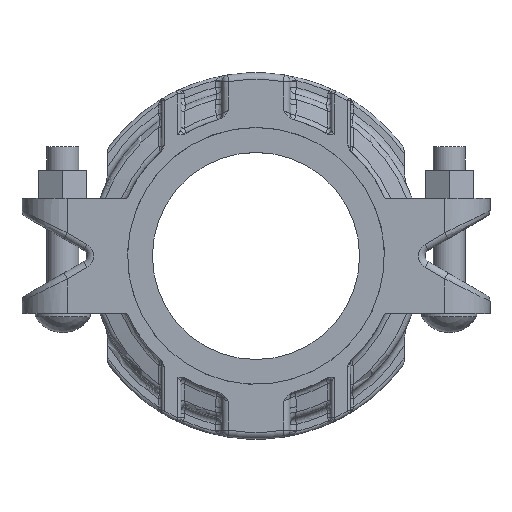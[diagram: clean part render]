
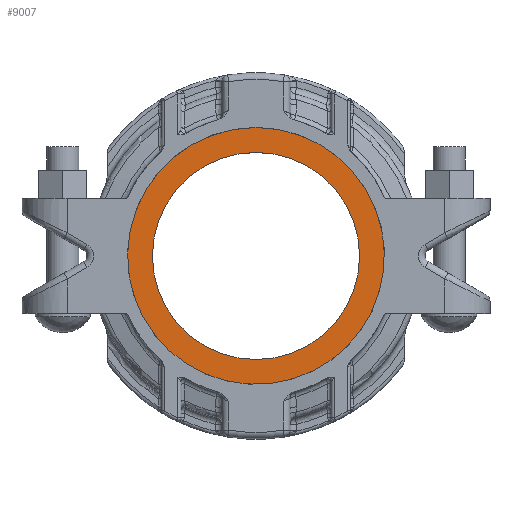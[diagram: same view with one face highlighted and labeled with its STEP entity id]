
A CAD part, top view. The second image highlights one B-rep face of the part: STEP entity #9007.
In plain terms, the highlighted planar face has unit normal (0, 0, 1).
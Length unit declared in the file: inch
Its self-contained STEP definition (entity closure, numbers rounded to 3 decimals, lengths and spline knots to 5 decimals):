
#1691=FACE_BOUND('',#2291,.T.);
#1710=FACE_OUTER_BOUND('',#2290,.T.);
#2290=EDGE_LOOP('',(#5630,#5631));
#2291=EDGE_LOOP('',(#5632));
#2886=CIRCLE('',#9608,2.01563);
#2887=CIRCLE('',#9610,2.5);
#2888=CIRCLE('',#9611,2.5);
#3475=VERTEX_POINT('',#13153);
#3476=VERTEX_POINT('',#13157);
#3477=VERTEX_POINT('',#13158);
#4269=EDGE_CURVE('',#3475,#3475,#2886,.T.);
#4270=EDGE_CURVE('',#3476,#3477,#2887,.T.);
#4271=EDGE_CURVE('',#3477,#3476,#2888,.T.);
#5630=ORIENTED_EDGE('',*,*,#4270,.F.);
#5631=ORIENTED_EDGE('',*,*,#4271,.F.);
#5632=ORIENTED_EDGE('',*,*,#4269,.T.);
#8341=PLANE('',#9609);
#9007=ADVANCED_FACE('',(#1710,#1691),#8341,.T.);
#9608=AXIS2_PLACEMENT_3D('',#13155,#10668,#10669);
#9609=AXIS2_PLACEMENT_3D('',#13156,#10670,#10671);
#9610=AXIS2_PLACEMENT_3D('',#13159,#10672,#10673);
#9611=AXIS2_PLACEMENT_3D('',#13160,#10674,#10675);
#10668=DIRECTION('center_axis',(0.,0.,-1.));
#10669=DIRECTION('ref_axis',(1.,0.,0.));
#10670=DIRECTION('center_axis',(0.,0.,1.));
#10671=DIRECTION('ref_axis',(-1.,0.,0.));
#10672=DIRECTION('center_axis',(0.,0.,-1.));
#10673=DIRECTION('ref_axis',(0.,-1.,0.));
#10674=DIRECTION('center_axis',(0.,0.,-1.));
#10675=DIRECTION('ref_axis',(0.,-1.,0.));
#13153=CARTESIAN_POINT('',(-2.01563,0.,0.0325));
#13155=CARTESIAN_POINT('Origin',(0.,0.,
0.0325));
#13156=CARTESIAN_POINT('Origin',(0.,0.,
0.0325));
#13157=CARTESIAN_POINT('',(-2.5,0.,0.0325));
#13158=CARTESIAN_POINT('',(0.,2.5,0.0325));
#13159=CARTESIAN_POINT('Origin',(0.,0.,
0.0325));
#13160=CARTESIAN_POINT('Origin',(0.,0.,
0.0325));
